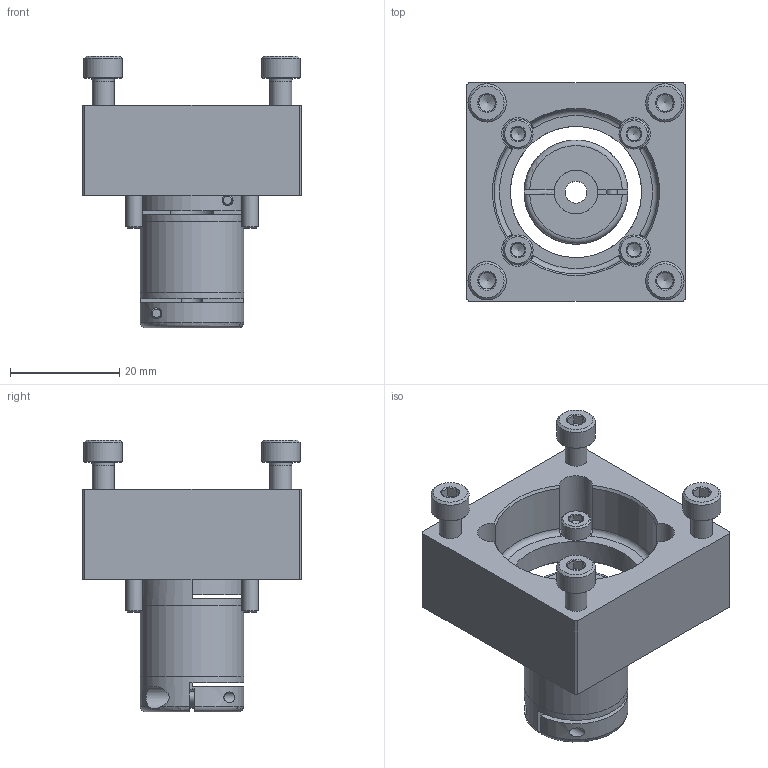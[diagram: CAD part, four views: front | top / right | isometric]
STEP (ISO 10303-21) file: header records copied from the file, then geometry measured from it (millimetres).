
FILE_DESCRIPTION(/* description */ ('Adapter KGH. - Adapter KGH.'),/* implementation_level */ '2;1');
FILE_NAME(/* name */ 'C:\ホームページ用データ\\X2\307E305A30533053306B\X0\\J08255.stp',/* time_stamp */ '2015-04-07T11:51:10+09:00',/* author */ ('jp4te01'),/* organization */ (''),/* preprocessor_version */ 'ST-DEVELOPER v15.2',/* originating_system */ 'Autodesk Inventor 2014',/* authorisation */ '');
FILE_SCHEMA (('AUTOMOTIVE_DESIGN { 1 0 10303 214 3 1 1 }'));
Length unit declared in the file: millimetre
Products named in the file (6): 562666_EAMF_A_28B_40S_T_1A1_; DIN_912___M3x12_F_; DIN_912___M4x12_F_; 562666_EAMF_A_28B_40S_T; XGT2-19C-4x8; J08255
Bounding box: 40 x 40 x 49.7 mm (x, y, z)
Volume: 22082.5 mm3; surface area: 13803 mm2
Topology: 12 solids, 12 shells, 398 faces, 920 edges, 563 vertices
Faces by surface type: plane 207, cone 108, cylinder 73, torus 10
Full cylindrical faces by diameter (mm): 2 x4, 2.5 x2, 3 x4, 3.242 x4, 3.4 x4, 3.8 x2, 4 x5, 4.1 x2, 5.5 x4, 7 x4, 8 x1, 8.8 x1, 19 x3, 24 x1
Entity records: 7174 total; most frequent: CARTESIAN_POINT 1743, DIRECTION 1100, ORIENTED_EDGE 1004, EDGE_CURVE 502, AXIS2_PLACEMENT_3D 439, VERTEX_POINT 350, EDGE_LOOP 316, ADVANCED_FACE 226
